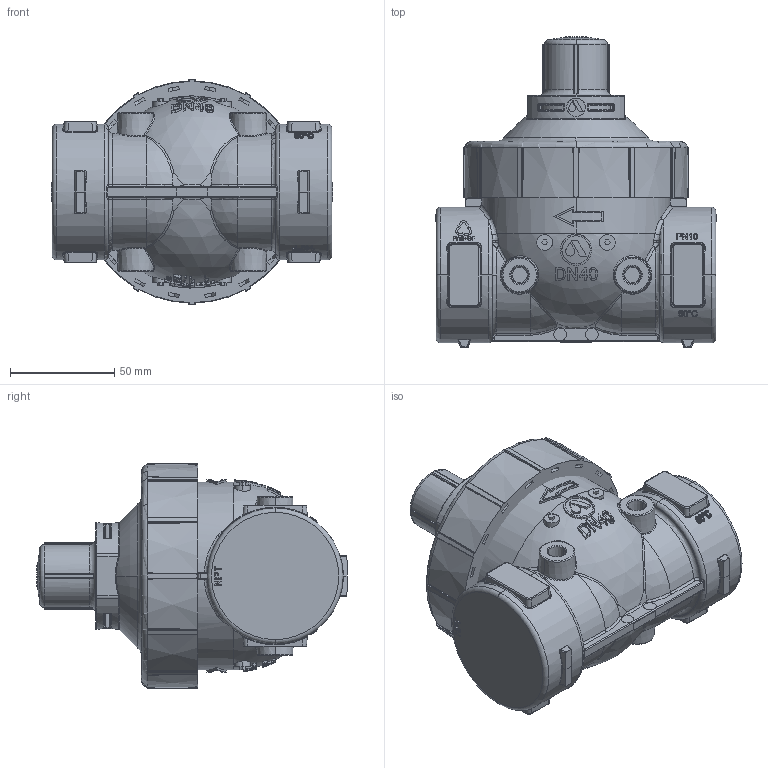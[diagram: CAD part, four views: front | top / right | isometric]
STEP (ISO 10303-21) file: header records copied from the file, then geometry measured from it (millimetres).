
FILE_DESCRIPTION (( 'STEP AP203' ), '1' );
FILE_NAME ('Assy_NR-010_1.5.STEP', '2014-01-14T05:41:59', ( '' ), ( '' ), 'SwSTEP 2.0', 'SolidWorks 2012', '' );
FILE_SCHEMA (( 'CONFIG_CONTROL_DESIGN' ));
Length unit declared in the file: millimetre
Products named in the file (3): Assy_NR-010_1.5; Cover_NR-010_2_ECONOMY; Body_NR-010_1-5_Body 1 1-2" NPT
Assembly tree (2 placements, depth 2):
  Assy_NR-010_1.5
    Body_NR-010_1-5_Body 1 1-2" NPT
    Cover_NR-010_2_ECONOMY
Bounding box: 135 x 148.6 x 108.22 mm (x, y, z)
Volume: 959706.6 mm3; surface area: 83324.9 mm2
Topology: 2 solids, 2 shells, 1475 faces, 3721 edges, 2369 vertices
Faces by surface type: plane 596, bspline 424, cylinder 233, torus 91, cone 74, sphere 57
Entity records: 63849 total; most frequent: CARTESIAN_POINT 31282, ORIENTED_EDGE 7438, DIRECTION 5707, EDGE_CURVE 3719, VERTEX_POINT 2369, AXIS2_PLACEMENT_3D 2133, EDGE_LOOP 1596, FACE_OUTER_BOUND 1475
